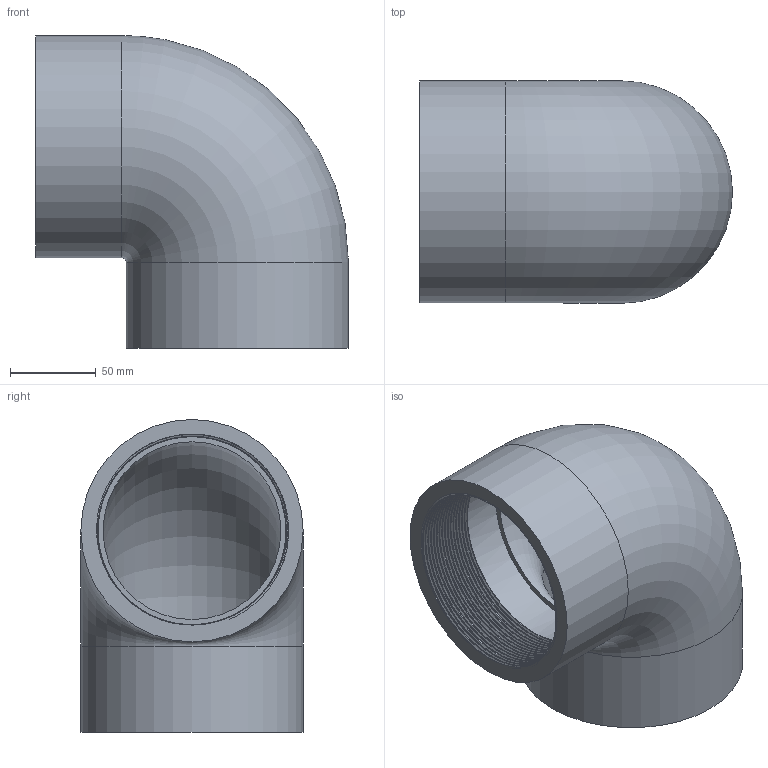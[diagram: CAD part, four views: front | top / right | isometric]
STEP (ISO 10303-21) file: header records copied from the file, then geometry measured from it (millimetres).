
FILE_DESCRIPTION(/* description */ ('PVC gomito a 90° incollaggio- filettato BSP femmina'),/* implementation_level */ '2;1');
FILE_NAME(/* name */ 'C:\Users\POLYPIPE\Desktop\DATASET INVENTOR\LIBRERIA EFFAST\RACCORDI 3DxWEB\RGR\3D_RGRGOG\3D_RGRGOG110L.stp',/* time_stamp */ '2018-01-19T17:42:29+01:00',/* author */ ('POLYPIPE'),/* organization */ ('Polypipe Italia s.r.l.'),/* preprocessor_version */ 'ST-DEVELOPER v16.1',/* originating_system */ 'Autodesk Inventor 2016',/* authorisation */ '');
FILE_SCHEMA (('CONFIG_CONTROL_DESIGN'));
Length unit declared in the file: millimetre
Products named in the file (1): 3D_RGRGOG
Bounding box: 183 x 130 x 183 mm (x, y, z)
Volume: 817632.8 mm3; surface area: 174870.8 mm2
Topology: 1 solids, 1 shells, 16 faces, 33 edges, 21 vertices
Faces by surface type: bspline 5, plane 5, cylinder 4, torus 2
Full cylindrical faces by diameter (mm): 110 x1, 110.072 x1, 130 x2
Entity records: 6557 total; most frequent: CARTESIAN_POINT 6243, ORIENTED_EDGE 52, DIRECTION 51, EDGE_LOOP 26, EDGE_CURVE 26, AXIS2_PLACEMENT_3D 24, VERTEX_POINT 20, FACE_OUTER_BOUND 16
